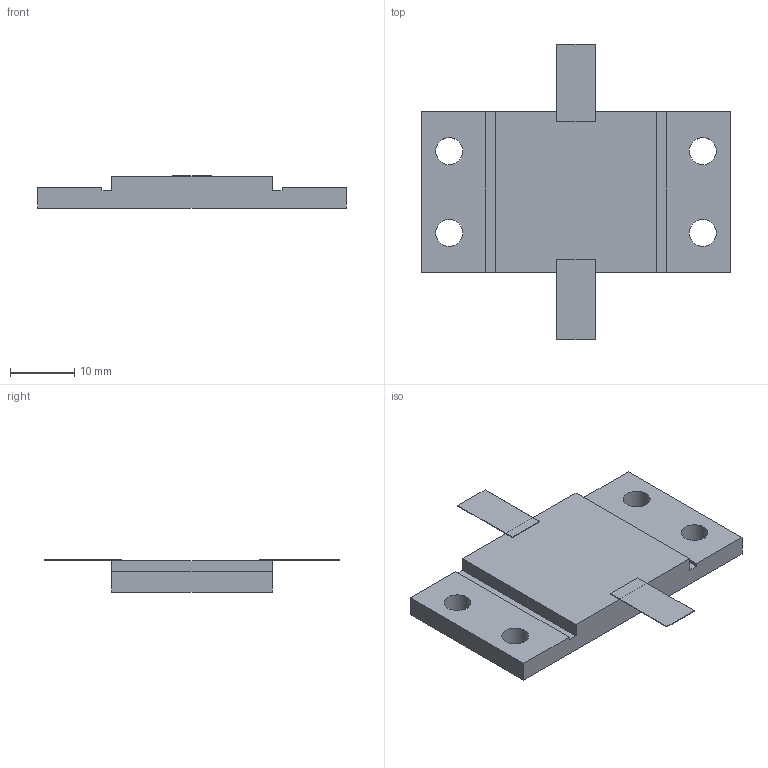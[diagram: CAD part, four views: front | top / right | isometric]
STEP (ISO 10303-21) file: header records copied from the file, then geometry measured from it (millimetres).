
FILE_DESCRIPTION(('STEP AP203'), '1');
FILE_NAME('Ð1-87-800', '', ('UNSPECIFIED'), ('UNSPECIFIED'), 'ASCON STEP Converter 1.6', 'ASCON Math Kernel', '');
FILE_SCHEMA(('CONFIG_CONTROL_DESIGN'));
Length unit declared in the file: millimetre
Bounding box: 48 x 46 x 5 mm (x, y, z)
Volume: 4702.4 mm3; surface area: 3646.9 mm2
Topology: 1 solids, 2 shells, 49 faces, 131 edges, 86 vertices
Faces by surface type: plane 41, cylinder 8
Full cylindrical faces by diameter (mm): 4.2 x4
Entity records: 1943 total; most frequent: CARTESIAN_POINT 263, ORIENTED_EDGE 254, DIRECTION 243, EDGE_CURVE 127, LINE 111, VECTOR 111, VERTEX_POINT 86, AXIS2_PLACEMENT_3D 66
